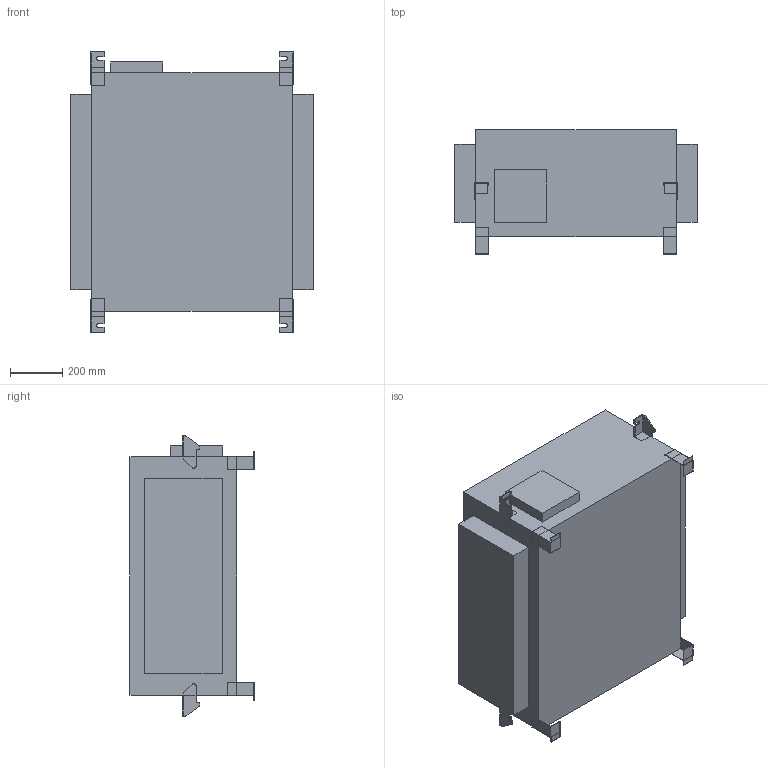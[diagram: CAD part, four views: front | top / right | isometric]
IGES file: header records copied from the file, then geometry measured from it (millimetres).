
Start section: SolidWorks IGES file using analytic representation for surfaces
Bounding box: 929 x 475 x 1073.6 mm (x, y, z)
Surface area: 3304774.5 mm2 (no closed solid volume)
Topology: 0 solids, 0 shells, 233 faces, 2000 edges, 2000 vertices
Faces by surface type: bspline 177, revolution 56
